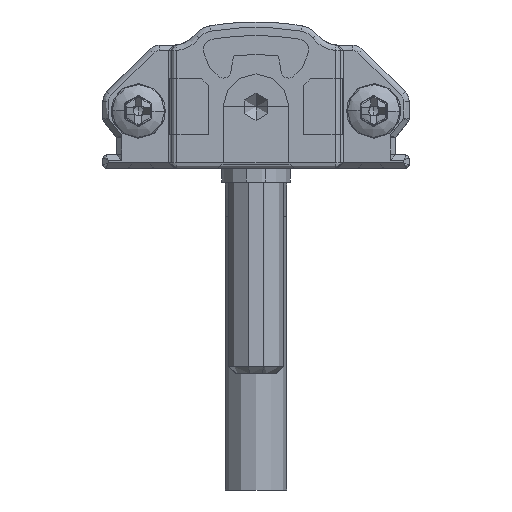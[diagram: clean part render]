
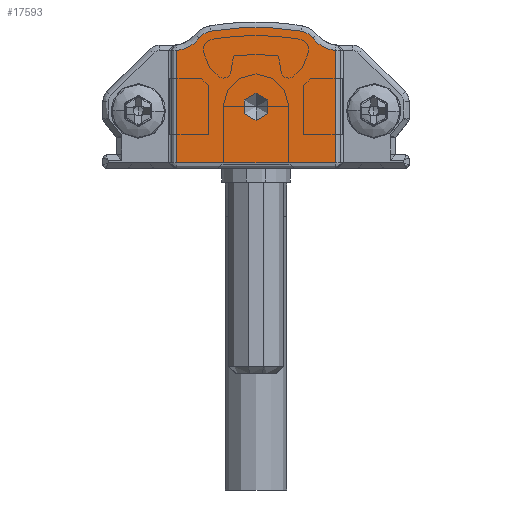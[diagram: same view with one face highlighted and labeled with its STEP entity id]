
A CAD part, front view. The second image highlights one B-rep face of the part: STEP entity #17593.
In plain terms, the highlighted planar face has unit normal (0, -1, 0).
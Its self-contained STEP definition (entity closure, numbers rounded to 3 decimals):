
#327 = CARTESIAN_POINT ( 'NONE',  ( 11.2, -15., 5.5 ) ) ;
#424 = FACE_BOUND ( 'NONE', #8166, .T. ) ;
#531 = LINE ( 'NONE', #12897, #31824 ) ;
#620 = ORIENTED_EDGE ( 'NONE', *, *, #26303, .T. ) ;
#718 = DIRECTION ( 'NONE',  ( 0., -1., 0. ) ) ;
#736 = LINE ( 'NONE', #24255, #5509 ) ;
#858 = ORIENTED_EDGE ( 'NONE', *, *, #30544, .T. ) ;
#914 = CARTESIAN_POINT ( 'NONE',  ( 7.892, -15., 10.034 ) ) ;
#1335 = DIRECTION ( 'NONE',  ( 0., 1., 0. ) ) ;
#1631 = EDGE_LOOP ( 'NONE', ( #620, #858, #12018, #4364, #12091, #8501, #7825, #8615 ) ) ;
#2302 = DIRECTION ( 'NONE',  ( 0., 1., 0. ) ) ;
#2788 = CARTESIAN_POINT ( 'NONE',  ( 22.15, -15., 3.606 ) ) ;
#2953 = DIRECTION ( 'NONE',  ( 0., 0., -1. ) ) ;
#3400 = CARTESIAN_POINT ( 'NONE',  ( 5.4, -15., 0.4 ) ) ;
#3858 = CARTESIAN_POINT ( 'NONE',  ( 17., -15., 0.4 ) ) ;
#4294 = CIRCLE ( 'NONE', #5913, 1.3 ) ;
#4364 = ORIENTED_EDGE ( 'NONE', *, *, #29252, .T. ) ;
#5169 = CARTESIAN_POINT ( 'NONE',  ( 14.508, -15., 10.034 ) ) ;
#5509 = VECTOR ( 'NONE', #31538, 1000. ) ;
#5913 = AXIS2_PLACEMENT_3D ( 'NONE', #16944, #11221, #22184 ) ;
#6234 = VERTEX_POINT ( 'NONE', #28566 ) ;
#6609 = CARTESIAN_POINT ( 'NONE',  ( 5.162, -15., 11. ) ) ;
#6814 = CARTESIAN_POINT ( 'NONE',  ( 17., -15., 8.612 ) ) ;
#7056 = EDGE_CURVE ( 'NONE', #24206, #30113, #531, .T. ) ;
#7825 = ORIENTED_EDGE ( 'NONE', *, *, #7056, .T. ) ;
#8166 = EDGE_LOOP ( 'NONE', ( #20920, #27616 ) ) ;
#8174 = CARTESIAN_POINT ( 'NONE',  ( 11.2, -15., -10.376 ) ) ;
#8397 = CARTESIAN_POINT ( 'NONE',  ( 11.2, -15., 4.5 ) ) ;
#8501 = ORIENTED_EDGE ( 'NONE', *, *, #30167, .T. ) ;
#8615 = ORIENTED_EDGE ( 'NONE', *, *, #11532, .T. ) ;
#9867 = DIRECTION ( 'NONE',  ( 0., 0., 1. ) ) ;
#9883 = EDGE_CURVE ( 'NONE', #26447, #28690, #20034, .T. ) ;
#9944 = CARTESIAN_POINT ( 'NONE',  ( 17.238, -15., 11. ) ) ;
#10032 = LINE ( 'NONE', #12726, #26724 ) ;
#10502 = DIRECTION ( 'NONE',  ( 0., -1., 0. ) ) ;
#10716 = DIRECTION ( 'NONE',  ( 0., 0., -1. ) ) ;
#11221 = DIRECTION ( 'NONE',  ( 0., -1., 0. ) ) ;
#11481 = VERTEX_POINT ( 'NONE', #23089 ) ;
#11532 = EDGE_CURVE ( 'NONE', #30113, #20988, #736, .T. ) ;
#12018 = ORIENTED_EDGE ( 'NONE', *, *, #20361, .T. ) ;
#12091 = ORIENTED_EDGE ( 'NONE', *, *, #18759, .T. ) ;
#12726 = CARTESIAN_POINT ( 'NONE',  ( 17., -15., 8.612 ) ) ;
#12897 = CARTESIAN_POINT ( 'NONE',  ( 5.4, -15., 0.4 ) ) ;
#13985 = DIRECTION ( 'NONE',  ( 0., 0., -1. ) ) ;
#14250 = VERTEX_POINT ( 'NONE', #5169 ) ;
#15682 = DIRECTION ( 'NONE',  ( 0., -1., 0. ) ) ;
#16944 = CARTESIAN_POINT ( 'NONE',  ( 8.1, -15., 8.75 ) ) ;
#17593 = ADVANCED_FACE ( 'NONE', ( #31387, #424 ), #23270, .T. ) ;
#18175 = AXIS2_PLACEMENT_3D ( 'NONE', #6609, #1335, #24887 ) ;
#18492 = DIRECTION ( 'NONE',  ( 0., 0., -1. ) ) ;
#18497 = VERTEX_POINT ( 'NONE', #914 ) ;
#18759 = EDGE_CURVE ( 'NONE', #18497, #6234, #4294, .T. ) ;
#19235 = CIRCLE ( 'NONE', #27868, 20.676 ) ;
#19288 = CARTESIAN_POINT ( 'NONE',  ( 11.2, -15., 3.5 ) ) ;
#20034 = CIRCLE ( 'NONE', #31388, 1. ) ;
#20361 = EDGE_CURVE ( 'NONE', #11481, #14250, #31925, .T. ) ;
#20920 = ORIENTED_EDGE ( 'NONE', *, *, #9883, .F. ) ;
#20988 = VERTEX_POINT ( 'NONE', #3858 ) ;
#21359 = CARTESIAN_POINT ( 'NONE',  ( 14.3, -15., 8.75 ) ) ;
#21493 = DIRECTION ( 'NONE',  ( 0., -1., 0. ) ) ;
#21653 = AXIS2_PLACEMENT_3D ( 'NONE', #21359, #718, #29329 ) ;
#22184 = DIRECTION ( 'NONE',  ( 0., 0., -1. ) ) ;
#23089 = CARTESIAN_POINT ( 'NONE',  ( 15.332, -15., 9.541 ) ) ;
#23091 = AXIS2_PLACEMENT_3D ( 'NONE', #2788, #15682, #2953 ) ;
#23270 = PLANE ( 'NONE',  #23091 ) ;
#24206 = VERTEX_POINT ( 'NONE', #32813 ) ;
#24255 = CARTESIAN_POINT ( 'NONE',  ( 17., -15., 0.4 ) ) ;
#24887 = DIRECTION ( 'NONE',  ( 0., 0., -1. ) ) ;
#25844 = EDGE_CURVE ( 'NONE', #28690, #26447, #33096, .T. ) ;
#26303 = EDGE_CURVE ( 'NONE', #20988, #31817, #10032, .T. ) ;
#26318 = CIRCLE ( 'NONE', #18175, 2.4 ) ;
#26447 = VERTEX_POINT ( 'NONE', #19288 ) ;
#26724 = VECTOR ( 'NONE', #9867, 1000. ) ;
#27616 = ORIENTED_EDGE ( 'NONE', *, *, #25844, .F. ) ;
#27868 = AXIS2_PLACEMENT_3D ( 'NONE', #8174, #21493, #18492 ) ;
#28005 = DIRECTION ( 'NONE',  ( 0., 0., -1. ) ) ;
#28566 = CARTESIAN_POINT ( 'NONE',  ( 7.068, -15., 9.541 ) ) ;
#28690 = VERTEX_POINT ( 'NONE', #327 ) ;
#29252 = EDGE_CURVE ( 'NONE', #14250, #18497, #19235, .T. ) ;
#29329 = DIRECTION ( 'NONE',  ( 0., 0., -1. ) ) ;
#30082 = AXIS2_PLACEMENT_3D ( 'NONE', #9944, #2302, #28005 ) ;
#30113 = VERTEX_POINT ( 'NONE', #3400 ) ;
#30167 = EDGE_CURVE ( 'NONE', #6234, #24206, #26318, .T. ) ;
#30435 = AXIS2_PLACEMENT_3D ( 'NONE', #8397, #31889, #13985 ) ;
#30544 = EDGE_CURVE ( 'NONE', #31817, #11481, #31174, .T. ) ;
#31174 = CIRCLE ( 'NONE', #30082, 2.4 ) ;
#31281 = CARTESIAN_POINT ( 'NONE',  ( 11.2, -15., 4.5 ) ) ;
#31387 = FACE_OUTER_BOUND ( 'NONE', #1631, .T. ) ;
#31388 = AXIS2_PLACEMENT_3D ( 'NONE', #31281, #10502, #33438 ) ;
#31538 = DIRECTION ( 'NONE',  ( 1., 0., 0. ) ) ;
#31817 = VERTEX_POINT ( 'NONE', #6814 ) ;
#31824 = VECTOR ( 'NONE', #10716, 1000. ) ;
#31889 = DIRECTION ( 'NONE',  ( 0., -1., 0. ) ) ;
#31925 = CIRCLE ( 'NONE', #21653, 1.3 ) ;
#32813 = CARTESIAN_POINT ( 'NONE',  ( 5.4, -15., 8.612 ) ) ;
#33096 = CIRCLE ( 'NONE', #30435, 1. ) ;
#33438 = DIRECTION ( 'NONE',  ( 0., 0., -1. ) ) ;
